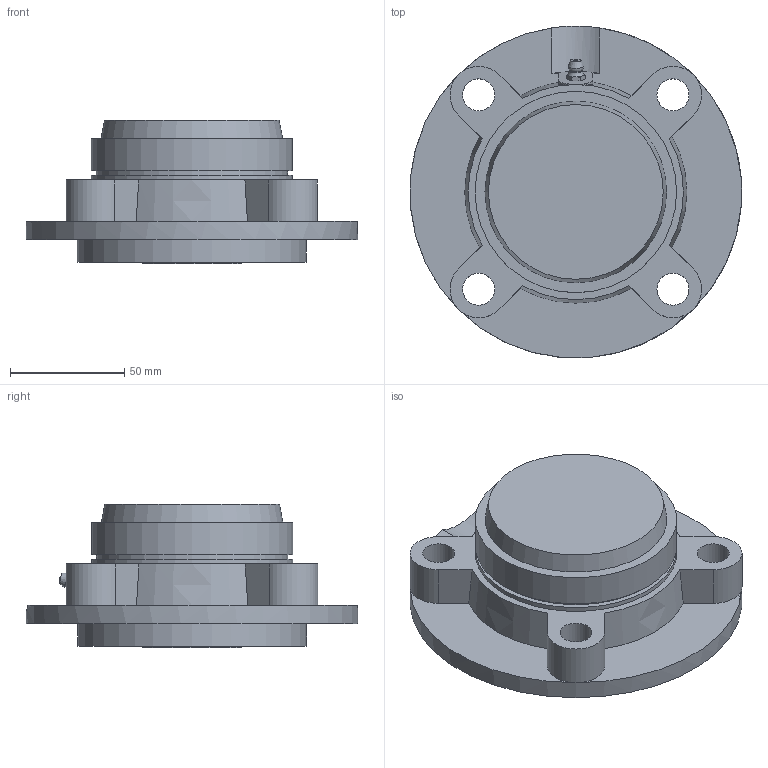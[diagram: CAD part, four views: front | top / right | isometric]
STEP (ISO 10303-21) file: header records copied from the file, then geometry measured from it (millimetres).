
FILE_DESCRIPTION((''),'2;1');
FILE_NAME('\\Ts-tgl068\j-cad-d-base\00.3DCADデータ作成フォルダ\02.フランジ形\UKFC200C(E)\UKFC208E+H.stp','2014-05-22T07:52:30',('btec_1106_2'),(''),'Autodesk Inventor 2012','Autodesk Inventor 2012','');
FILE_SCHEMA(('AUTOMOTIVE_DESIGN { 1 0 10303 214 1 1 1 1 }'));
Length unit declared in the file: millimetre
Products named in the file (5): UKFC200E+H; FC208C; 208CPE; UK208; GU1
Assembly tree (4 placements, depth 2):
  UKFC200E+H
    FC208C
    208CPE
    UK208
    GU1
Bounding box: 144.83 x 144.89 x 62.5 mm (x, y, z)
Volume: 294663.3 mm3; surface area: 104838.5 mm2
Topology: 4 solids, 4 shells, 201 faces, 510 edges, 332 vertices
Faces by surface type: plane 89, cylinder 52, cone 52, sphere 4, bspline 2, torus 2
Full cylindrical faces by diameter (mm): 5.359 x1, 6.35 x1, 14 x4, 35 x1, 53 x2, 82 x1, 83.6 x1, 86.4 x2, 88 x3, 100 x1, 145 x1
Entity records: 5998 total; most frequent: CARTESIAN_POINT 1362, ORIENTED_EDGE 940, DIRECTION 931, EDGE_CURVE 470, AXIS2_PLACEMENT_3D 387, VERTEX_POINT 320, EDGE_LOOP 261, FACE_OUTER_BOUND 201
